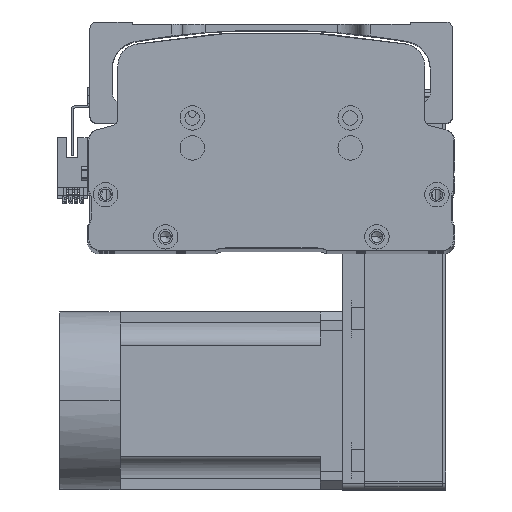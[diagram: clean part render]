
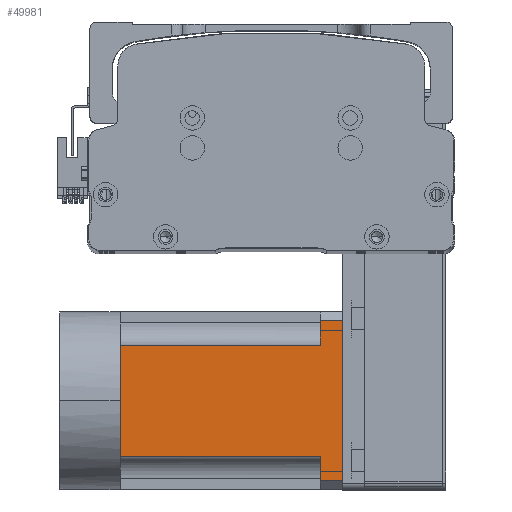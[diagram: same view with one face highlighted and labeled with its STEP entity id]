
A CAD part, top view. The second image highlights one B-rep face of the part: STEP entity #49981.
In plain terms, the highlighted planar face has unit normal (0, 0, 1) as drawn and (0, 0, -1) by its records, which use the part's own axes.
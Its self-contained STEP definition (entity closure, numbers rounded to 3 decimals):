
#360 = CARTESIAN_POINT ( 'NONE',  ( -40., 90., -40. ) ) ;
#383 = CARTESIAN_POINT ( 'NONE',  ( -36., -27., -40. ) ) ;
#693 = LINE ( 'NONE', #3921, #22035 ) ;
#975 = ORIENTED_EDGE ( 'NONE', *, *, #18179, .T. ) ;
#1121 = DIRECTION ( 'NONE',  ( 0., 1., 0. ) ) ;
#2606 = PLANE ( 'NONE',  #22380 ) ;
#3921 = CARTESIAN_POINT ( 'NONE',  ( -40., 0., -40. ) ) ;
#4060 = LINE ( 'NONE', #18465, #54396 ) ;
#4534 = EDGE_CURVE ( 'NONE', #62109, #11410, #30575, .T. ) ;
#4631 = LINE ( 'NONE', #383, #40461 ) ;
#4693 = VECTOR ( 'NONE', #1121, 1000. ) ;
#5328 = DIRECTION ( 'NONE',  ( -1., 0., 0. ) ) ;
#5721 = CARTESIAN_POINT ( 'NONE',  ( -25., 0., -40. ) ) ;
#9519 = CARTESIAN_POINT ( 'NONE',  ( 25., -27., -40. ) ) ;
#10763 = VERTEX_POINT ( 'NONE', #24122 ) ;
#11410 = VERTEX_POINT ( 'NONE', #50203 ) ;
#11471 = LINE ( 'NONE', #9519, #21344 ) ;
#12414 = CARTESIAN_POINT ( 'NONE',  ( -40., -27., -40. ) ) ;
#12989 = ORIENTED_EDGE ( 'NONE', *, *, #43004, .T. ) ;
#13609 = ORIENTED_EDGE ( 'NONE', *, *, #30368, .T. ) ;
#14037 = VERTEX_POINT ( 'NONE', #5721 ) ;
#14411 = DIRECTION ( 'NONE',  ( 0., -1., 0. ) ) ;
#15411 = EDGE_CURVE ( 'NONE', #33726, #58220, #4060, .T. ) ;
#16915 = VECTOR ( 'NONE', #18034, 1000. ) ;
#18034 = DIRECTION ( 'NONE',  ( -1., 0., 0. ) ) ;
#18179 = EDGE_CURVE ( 'NONE', #21468, #53536, #51813, .T. ) ;
#18465 = CARTESIAN_POINT ( 'NONE',  ( -40., 0., -40. ) ) ;
#18589 = DIRECTION ( 'NONE',  ( -1., 0., 0. ) ) ;
#19405 = EDGE_CURVE ( 'NONE', #14037, #62109, #56536, .T. ) ;
#19885 = EDGE_CURVE ( 'NONE', #11410, #10763, #4631, .T. ) ;
#19953 = VECTOR ( 'NONE', #5328, 1000. ) ;
#21344 = VECTOR ( 'NONE', #14411, 1000. ) ;
#21468 = VERTEX_POINT ( 'NONE', #43082 ) ;
#22035 = VECTOR ( 'NONE', #18589, 1000. ) ;
#22131 = CARTESIAN_POINT ( 'NONE',  ( -25., 90., -40. ) ) ;
#22380 = AXIS2_PLACEMENT_3D ( 'NONE', #12414, #62106, #32881 ) ;
#24122 = CARTESIAN_POINT ( 'NONE',  ( -36., 100., -40. ) ) ;
#24266 = VECTOR ( 'NONE', #53565, 1000. ) ;
#24421 = EDGE_LOOP ( 'NONE', ( #54133, #975, #40384, #13609, #38431, #12989, #50196, #55114, #36011 ) ) ;
#29946 = LINE ( 'NONE', #61801, #16915 ) ;
#30368 = EDGE_CURVE ( 'NONE', #55006, #33726, #11471, .T. ) ;
#30575 = LINE ( 'NONE', #42494, #38935 ) ;
#32881 = DIRECTION ( 'NONE',  ( -1., 0., 0. ) ) ;
#32985 = LINE ( 'NONE', #360, #19953 ) ;
#33726 = VERTEX_POINT ( 'NONE', #43381 ) ;
#34084 = CARTESIAN_POINT ( 'NONE',  ( 25., 90., -40. ) ) ;
#35248 = CARTESIAN_POINT ( 'NONE',  ( -25., -27., -40. ) ) ;
#36011 = ORIENTED_EDGE ( 'NONE', *, *, #19885, .T. ) ;
#38431 = ORIENTED_EDGE ( 'NONE', *, *, #15411, .T. ) ;
#38848 = CARTESIAN_POINT ( 'NONE',  ( 36., -27., -40. ) ) ;
#38935 = VECTOR ( 'NONE', #62140, 1000. ) ;
#39056 = EDGE_CURVE ( 'NONE', #21468, #10763, #29946, .T. ) ;
#40384 = ORIENTED_EDGE ( 'NONE', *, *, #52726, .T. ) ;
#40461 = VECTOR ( 'NONE', #58813, 1000. ) ;
#42494 = CARTESIAN_POINT ( 'NONE',  ( -40., 90., -40. ) ) ;
#43004 = EDGE_CURVE ( 'NONE', #58220, #14037, #693, .T. ) ;
#43082 = CARTESIAN_POINT ( 'NONE',  ( 36., 100., -40. ) ) ;
#43381 = CARTESIAN_POINT ( 'NONE',  ( 25., 0., -40. ) ) ;
#45503 = FACE_OUTER_BOUND ( 'NONE', #24421, .T. ) ;
#49981 = ADVANCED_FACE ( 'NONE', ( #45503 ), #2606, .T. ) ;
#50196 = ORIENTED_EDGE ( 'NONE', *, *, #19405, .T. ) ;
#50203 = CARTESIAN_POINT ( 'NONE',  ( -36., 90., -40. ) ) ;
#51489 = CARTESIAN_POINT ( 'NONE',  ( 36., 90., -40. ) ) ;
#51813 = LINE ( 'NONE', #38848, #24266 ) ;
#52637 = DIRECTION ( 'NONE',  ( -1., 0., 0. ) ) ;
#52726 = EDGE_CURVE ( 'NONE', #53536, #55006, #32985, .T. ) ;
#53536 = VERTEX_POINT ( 'NONE', #51489 ) ;
#53565 = DIRECTION ( 'NONE',  ( 0., -1., 0. ) ) ;
#54133 = ORIENTED_EDGE ( 'NONE', *, *, #39056, .F. ) ;
#54396 = VECTOR ( 'NONE', #52637, 1000. ) ;
#55006 = VERTEX_POINT ( 'NONE', #34084 ) ;
#55114 = ORIENTED_EDGE ( 'NONE', *, *, #4534, .T. ) ;
#56536 = LINE ( 'NONE', #35248, #4693 ) ;
#57365 = CARTESIAN_POINT ( 'NONE',  ( 0., 0., -40. ) ) ;
#58220 = VERTEX_POINT ( 'NONE', #57365 ) ;
#58813 = DIRECTION ( 'NONE',  ( 0., 1., 0. ) ) ;
#61801 = CARTESIAN_POINT ( 'NONE',  ( -40., 100., -40. ) ) ;
#62106 = DIRECTION ( 'NONE',  ( 0., 0., -1. ) ) ;
#62109 = VERTEX_POINT ( 'NONE', #22131 ) ;
#62140 = DIRECTION ( 'NONE',  ( -1., 0., 0. ) ) ;
